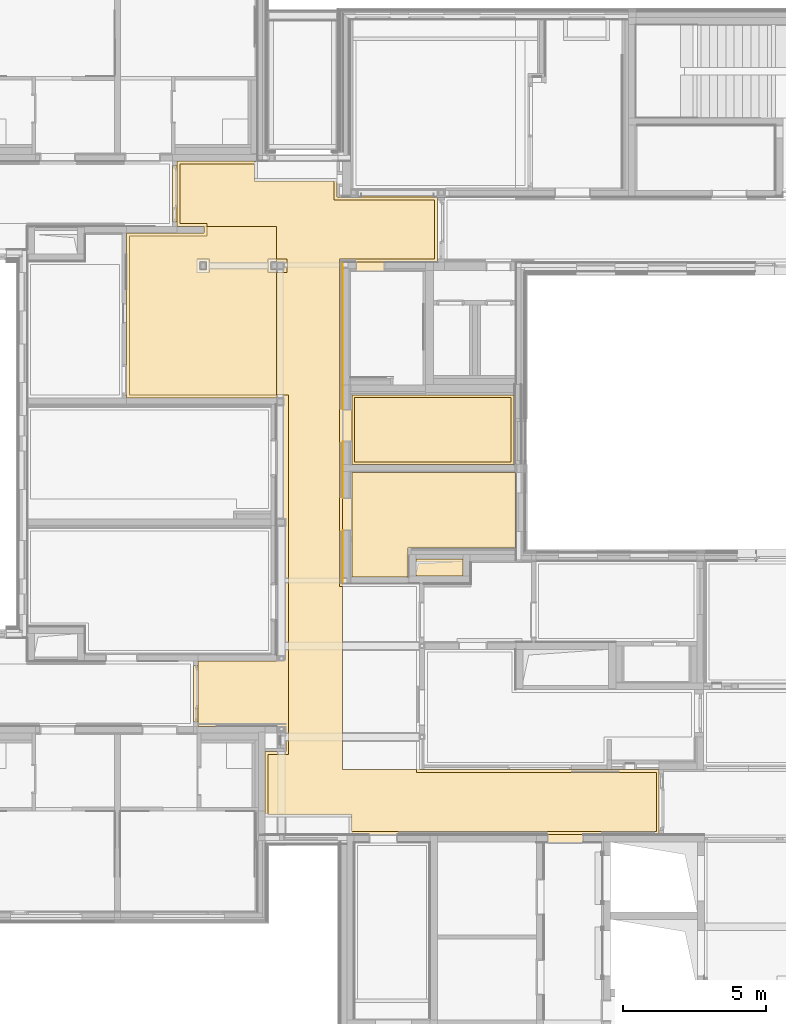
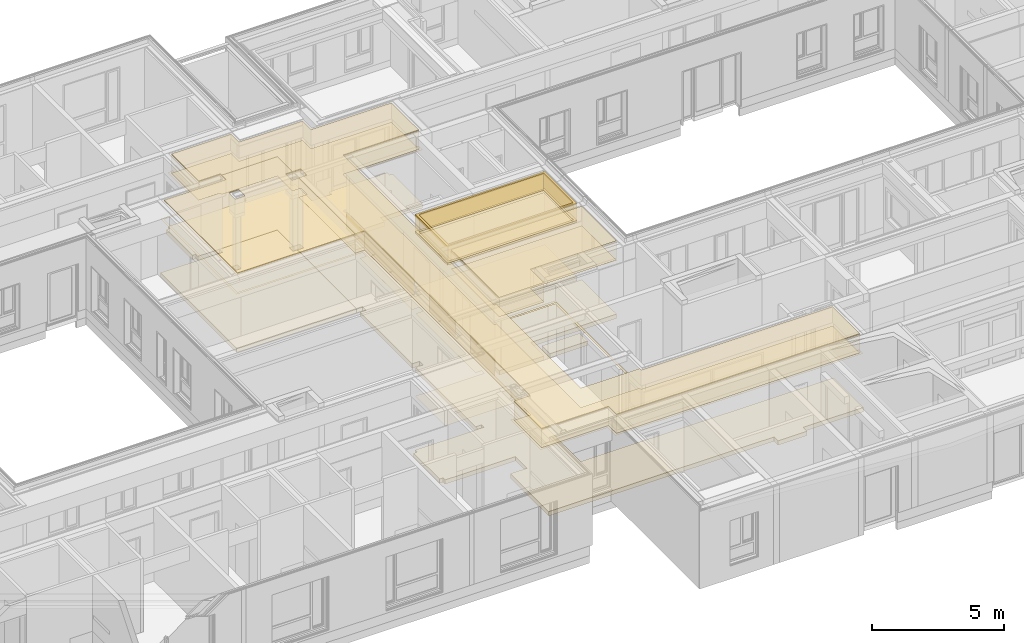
# One storey, part 170 of 207: 25 coverings.
"""IFC4 building model written with IfcOpenShell, lengths in metres."""

import ifcopenshell
import ifcopenshell.guid

model = None  # the IFC model being written
_history = None  # IfcOwnerHistory: only IFC2X3 demands one
_inside = {}  # id of a spatial element -> (the spatial element, [elements in it])
_under = {}  # id of a project, library or spatial element -> (it, [spatial elements below it])
_declared = {}  # id of a project -> (the project, [libraries it declares])
_typed = {}  # id of a type object -> (the type object, [elements of that type])
_made_of = {}  # id of a material, layer set ... -> (it, [elements and type objects made of it])


def new_model(schema):
    """Start an empty IFC model of exactly this schema.

    Asked for "IFC4X3", IfcOpenShell would pick the latest addendum, in which some entities
    have other attributes; the version numbers below select the first issue.
    IFC2X3 requires an IfcOwnerHistory on every rooted entity: one is made here for all.
    """
    global model, _history
    if schema == "IFC4X3":
        model = ifcopenshell.file(schema_version=(4, 3, 0, 0))
    else:
        model = ifcopenshell.file(schema=schema)
    _inside.clear()
    _under.clear()
    _declared.clear()
    _typed.clear()
    _made_of.clear()
    _history = None
    if model.schema == "IFC2X3":
        org = make("IfcOrganization", Name="unknown")
        user = make(
            "IfcPersonAndOrganization",
            ThePerson=make("IfcPerson", FamilyName="unknown"),
            TheOrganization=org,
        )
        app = make(
            "IfcApplication",
            ApplicationDeveloper=org,
            Version="unknown",
            ApplicationFullName="unknown",
            ApplicationIdentifier="unknown",
        )
        _history = make(
            "IfcOwnerHistory",
            OwningUser=user,
            OwningApplication=app,
            ChangeAction="ADDED",
            CreationDate=0,
        )
    return model


def make(cls, **values):
    """One entity of the class cls with the attributes given. An attribute that is None is left unset."""
    return model.create_entity(
        cls, **{name: value for name, value in values.items() if value is not None}
    )


def entity(cls, *values):
    """Any entity or typed value of the class cls, its attributes in the order of the schema. None: left unset."""
    e = model.create_entity(cls)
    for i, value in enumerate(values):
        if value is not None:
            e[i] = value
    return e


def rooted(cls, **values):
    """An entity with a GlobalId (a new one), such as an element, a storey or a relation."""
    return make(cls, GlobalId=ifcopenshell.guid.new(), OwnerHistory=_history, **values)


def si_unit(unit_type, name, prefix=None):
    """IfcSIUnit, for example si_unit("LENGTHUNIT", "METRE", prefix="MILLI")."""
    return make("IfcSIUnit", UnitType=unit_type, Prefix=prefix, Name=name)


def converted_unit(unit_type, name, factor, base, dimensions=None, offset=None):
    """IfcConversionBasedUnit, such as the inch: factor (a typed value) times the base unit."""
    return make(
        "IfcConversionBasedUnit"
        if offset is None
        else "IfcConversionBasedUnitWithOffset",
        ConversionOffset=offset,
        Dimensions=None
        if dimensions is None
        else entity("IfcDimensionalExponents", *dimensions),
        UnitType=unit_type,
        Name=name,
        ConversionFactor=make(
            "IfcMeasureWithUnit", ValueComponent=factor, UnitComponent=base
        ),
    )


def derived_unit(unit_type, elements):
    """IfcDerivedUnit: a product of units, each with its exponent."""
    return make(
        "IfcDerivedUnit",
        Elements=[
            make("IfcDerivedUnitElement", Unit=unit, Exponent=power)
            for unit, power in elements
        ],
        UnitType=unit_type,
    )


def assignment(units):
    """IfcUnitAssignment: the units of a project."""
    return None if units is None else make("IfcUnitAssignment", Units=units)


def point(xyz):
    """IfcCartesianPoint."""
    return None if xyz is None else make("IfcCartesianPoint", Coordinates=xyz)


def direction(xyz):
    """IfcDirection."""
    return None if xyz is None else make("IfcDirection", DirectionRatios=xyz)


def frame(location, z_axis=None, x_axis=None):
    """IfcAxis2Placement3D, a coordinate frame: its origin and axes. An axis left out is left unset."""
    return make(
        "IfcAxis2Placement3D",
        Location=point(location),
        Axis=direction(z_axis),
        RefDirection=direction(x_axis),
    )


def frame_2d(location, x_axis=None):
    """IfcAxis2Placement2D, a coordinate frame in the plane: its origin and x axis."""
    return make(
        "IfcAxis2Placement2D", Location=point(location), RefDirection=direction(x_axis)
    )


def origin():
    """The frame at (0, 0, 0) with its axes left unset."""
    return frame((0.0, 0.0, 0.0))


def origin_with_axes():
    """The frame at (0, 0, 0) with the z axis (0, 0, 1) and the x axis (1, 0, 0) written out."""
    return frame((0.0, 0.0, 0.0), z_axis=(0.0, 0.0, 1.0), x_axis=(1.0, 0.0, 0.0))


def place(relative_to, where):
    """IfcLocalPlacement: puts the frame where relative to a parent placement (None: the world)."""
    return make(
        "IfcLocalPlacement", PlacementRelTo=relative_to, RelativePlacement=where
    )


def context(
    kind, dimensions, precision=None, world=None, true_north=None, identifier=None
):
    """IfcGeometricRepresentationContext, for example the 3D "Model" context."""
    return make(
        "IfcGeometricRepresentationContext",
        ContextIdentifier=identifier,
        ContextType=kind,
        CoordinateSpaceDimension=dimensions,
        Precision=precision,
        WorldCoordinateSystem=world,
        TrueNorth=true_north,
    )


def subcontext(parent, identifier, kind, view, scale=None):
    """IfcGeometricRepresentationSubContext, for example "Body" below "Model"."""
    return make(
        "IfcGeometricRepresentationSubContext",
        ContextIdentifier=identifier,
        ContextType=kind,
        ParentContext=parent,
        TargetScale=scale,
        TargetView=view,
    )


def project(units=None, contexts=None):
    """IfcProject with its units and contexts."""
    return rooted(
        "IfcProject",
        Name="project",
        RepresentationContexts=contexts,
        UnitsInContext=assignment(units),
    )


def spatial(cls, under=None, at=None, **own):
    """A site, building, storey or space (cls), placed at a placement, below another one or the project."""
    s = rooted(cls, ObjectPlacement=at, **own)
    if under is not None:
        _under.setdefault(under.id(), (under, []))[1].append(s)
    return s


def polyline(points):
    """IfcPolyline through the points."""
    return make("IfcPolyline", Points=[point(p) for p in points])


def profile(cls, at=None, kind="AREA", **sizes):
    """A parametric profile (cls). Its sizes go by their IFC names, for example OverallWidth=200.0."""
    return make(cls, ProfileType=kind, Position=at, **sizes)


def rectangle(**sizes):
    """IfcRectangleProfileDef."""
    return profile("IfcRectangleProfileDef", **sizes)


def outline(outer, holes=None, kind="AREA"):
    """IfcArbitraryClosedProfileDef: a profile drawn as a closed curve; with holes, ...WithVoids."""
    if holes is None:
        return make("IfcArbitraryClosedProfileDef", ProfileType=kind, OuterCurve=outer)
    return make(
        "IfcArbitraryProfileDefWithVoids",
        ProfileType=kind,
        OuterCurve=outer,
        InnerCurves=holes,
    )


def extrude(swept, where, along, depth):
    """IfcExtrudedAreaSolid: the profile swept, set in the frame where, extruded along a direction by depth."""
    return make(
        "IfcExtrudedAreaSolid",
        SweptArea=swept,
        Position=where,
        ExtrudedDirection=direction(along),
        Depth=depth,
    )


def shape(context_of_items, identifier, shape_type, items):
    """IfcShapeRepresentation: the items that make up one representation, for example the "Body"."""
    return make(
        "IfcShapeRepresentation",
        ContextOfItems=context_of_items,
        RepresentationIdentifier=identifier,
        RepresentationType=shape_type,
        Items=items,
    )


def material(Name=None, Category=None):
    """IfcMaterial."""
    return make("IfcMaterial", Name=Name, Category=Category)


def layer(
    of_material, thickness, ventilated=None, Name=None, Category=None, Priority=None
):
    """IfcMaterialLayer: one layer of a wall or slab, of a material (None: an air gap)."""
    return make(
        "IfcMaterialLayer",
        Material=of_material,
        LayerThickness=thickness,
        IsVentilated=ventilated,
        Name=Name,
        Category=Category,
        Priority=Priority,
    )


def layer_set(layers, Name=None):
    """IfcMaterialLayerSet."""
    return make("IfcMaterialLayerSet", MaterialLayers=layers, LayerSetName=Name)


def layer_usage(for_layer_set, set_direction, sense, offset, extent=None):
    """IfcMaterialLayerSetUsage: how a layer set lies in its element."""
    return make(
        "IfcMaterialLayerSetUsage",
        ForLayerSet=for_layer_set,
        LayerSetDirection=set_direction,
        DirectionSense=sense,
        OffsetFromReferenceLine=offset,
        ReferenceExtent=extent,
    )


def made_of(thing, what):
    """Note that an element or type object is made of a material, layer set ...; save() writes the relation."""
    if what is not None:
        _made_of.setdefault(what.id(), (what, []))[1].append(thing)
    return thing


def element(
    cls,
    number,
    at=None,
    inside=None,
    cuts=None,
    type_object=None,
    material=None,
    context=None,
    identifier="Body",
    shape_type=None,
    held_by="IfcProductDefinitionShape",
    body=None,
    shapes=None,
    **own,
):
    """One element of the class cls, such as IfcWall. Its Tag is "e" and its number.

    at: its placement. inside: the storey or other place that contains it. cuts: it is an
    opening in that element (IfcRelVoidsElement). A single representation is given by context,
    identifier, shape_type and body (its items); several are given by shapes. held_by: the class
    of the entity that holds the representations. save() writes the other relations.
    """
    e = rooted(cls, Tag="e%d" % number, ObjectPlacement=at, **own)
    if body is not None:
        shapes = [shape(context, identifier, shape_type, body)]
    if shapes is not None:
        e.Representation = make(held_by, Representations=shapes)
    if inside is not None:
        _inside.setdefault(inside.id(), (inside, []))[1].append(e)
    if cuts is not None:
        rooted(
            "IfcRelVoidsElement", RelatingBuildingElement=cuts, RelatedOpeningElement=e
        )
    if type_object is not None:
        _typed.setdefault(type_object.id(), (type_object, []))[1].append(e)
    return made_of(e, material)


def aggregate(whole, parts):
    """IfcRelAggregates: a whole, such as a stair, and the parts it consists of."""
    return rooted("IfcRelAggregates", RelatingObject=whole, RelatedObjects=parts)


def save(model, path):
    """Write the relations noted so far, then the file.

    IfcRelAggregates (storeys below a building ...), IfcRelContainedInSpatialStructure (elements
    in a storey), IfcRelDefinesByType, IfcRelAssociatesMaterial and IfcRelDeclares: one each for
    every whole, place, type object, material and project.
    """
    for whole, parts in _under.values():
        aggregate(whole, parts)
    for where, things in _inside.values():
        rooted(
            "IfcRelContainedInSpatialStructure",
            RelatedElements=things,
            RelatingStructure=where,
        )
    for kind, things in _typed.values():
        rooted("IfcRelDefinesByType", RelatedObjects=things, RelatingType=kind)
    for what, things in _made_of.values():
        rooted("IfcRelAssociatesMaterial", RelatedObjects=things, RelatingMaterial=what)
    for by, libraries in _declared.values():
        rooted("IfcRelDeclares", RelatingContext=by, RelatedDefinitions=libraries)
    model.write(path)


model = new_model("IFC4")

# Units and contexts
model_context = context("Model", 3, precision=1e-05, world=origin())
body_context = subcontext(model_context, "Body", "Model", "MODEL_VIEW")
ifc_project = project(units=[si_unit("LENGTHUNIT", "METRE"), si_unit("AREAUNIT", "SQUARE_METRE"), si_unit("VOLUMEUNIT", "CUBIC_METRE"), si_unit("MASSUNIT", "GRAM", prefix="KILO"), converted_unit("PLANEANGLEUNIT", "DEGREE", entity("IfcPlaneAngleMeasure", 0.0174532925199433), si_unit("PLANEANGLEUNIT", "RADIAN"), dimensions=[0, 0, 0, 0, 0, 0, 0]), derived_unit("THERMALTRANSMITTANCEUNIT", [(si_unit("POWERUNIT", "WATT"), 1), (si_unit("THERMODYNAMICTEMPERATUREUNIT", "KELVIN"), -1), (si_unit("LENGTHUNIT", "METRE"), -2)]), derived_unit("VOLUMETRICFLOWRATEUNIT", [(si_unit("LENGTHUNIT", "METRE"), 3), (converted_unit("TIMEUNIT", "hour", entity("IfcTimeMeasure", 3600.0), si_unit("TIMEUNIT", "SECOND"), dimensions=[0, 0, 1, 0, 0, 0, 0]), -1), (si_unit("LENGTHUNIT", "METRE"), -1)])], contexts=[model_context])

# Site, building, storey
site_placement = place(None, origin())
site = spatial("IfcSite", under=ifc_project, at=site_placement, Name="Psychiatrie Neubau Wunstorf", CompositionType="ELEMENT")
building_placement = place(site_placement, origin())
building = spatial("IfcBuilding", under=site, at=building_placement, Name="Neubau H2 Stationsgebäude", CompositionType="ELEMENT")
storey_placement = place(building_placement, frame((0.0, 0.0, -0.2)))
storey = spatial("IfcBuildingStorey", under=building, at=storey_placement, Name="H2 Ebene 0", CompositionType="ELEMENT", Elevation=-0.2)

# Covering
ifc_material_1 = material(Name="SE")
ifc_layer_1 = layer(ifc_material_1, 0.19)
ifc_layer_set_1 = layer_set([ifc_layer_1])
ifc_layer_usage_1 = layer_usage(ifc_layer_set_1, "AXIS3", "POSITIVE", 0.0)
covering_1_placement = place(storey_placement, frame((40.4499511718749, 9.58499624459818, 0.0)))
element("IfcCovering", 1, at=covering_1_placement, inside=storey, material=ifc_layer_usage_1, Name="Estrich", PredefinedType="FLOORING", context=body_context, shape_type="SweptSolid", body=[
    extrude(rectangle(XDim=0.611003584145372, YDim=1.65000000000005, at=frame_2d((0.825000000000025, -0.305501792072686), x_axis=(0.0, -1.0))), frame((0.0, 0.611003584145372, 0.0), z_axis=(0.0, 0.0, 1.0), x_axis=(1.0, 0.0, 0.0)), (0.0, 0.0, 1.0), 0.19),
])

# Space
space_1_placement = place(storey_placement, frame((32.083, 0.549, 0.0)))
space_1 = spatial("IfcSpace", under=storey, at=space_1_placement, Name="WUN-H2-E00-F03", CompositionType="ELEMENT")

# Coverings
ifc_material_2 = material(Name="84")
ifc_layer_2 = layer(ifc_material_2, 0.001)
ifc_layer_set_2 = layer_set([ifc_layer_2])
ifc_layer_usage_2 = layer_usage(ifc_layer_set_2, "AXIS3", "POSITIVE", 0.0)
covering_2_placement = place(space_1_placement, frame((5.79949999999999, 8.77499624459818, 0.1)))
element("IfcCovering", 2, at=covering_2_placement, inside=space_1, material=ifc_layer_usage_2, Name="Acrobyn", PredefinedType="CLADDING", context=body_context, shape_type="SweptSolid", body=[
    extrude(rectangle(XDim=0.9, YDim=5.16099802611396, at=frame_2d((2.58049901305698, 0.45), x_axis=(0.0, 1.0))), frame((0.0, 6.10100375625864, 0.9), z_axis=(-1.0, 0.0, 0.0), x_axis=(0.0, 1.0, 0.0)), (0.0, 0.0, 1.0), 0.001),
    extrude(rectangle(XDim=0.9, YDim=1.86600344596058, at=frame_2d((-0.933001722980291, -0.45), x_axis=(0.0, -1.0))), frame((0.0, 1.86600344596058, 0.0), z_axis=(-1.0, 0.0, 0.0), x_axis=(0.0, 1.0, 0.0)), (0.0, 0.0, 1.0), 0.001),
    extrude(rectangle(XDim=0.9, YDim=1.96500031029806, at=frame_2d((-0.982500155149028, -0.45), x_axis=(0.0, -1.0))), frame((0.0, 4.96600375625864, 0.0), z_axis=(-1.0, 0.0, 0.0), x_axis=(0.0, 1.0, 0.0)), (0.0, 0.0, 1.0), 0.001),
])
ifc_material_3 = material(Name="97")
ifc_layer_3 = layer(ifc_material_3, 0.001)
ifc_layer_set_3 = layer_set([ifc_layer_3])
ifc_layer_usage_3 = layer_usage(ifc_layer_set_3, "AXIS3", "POSITIVE", 0.0)
covering_3_placement = place(space_1_placement, frame((5.79949999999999, 8.77499624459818, 0.8)))
element("IfcCovering", 3, at=covering_3_placement, inside=space_1, material=ifc_layer_usage_3, Name="Handlauf", PredefinedType="CLADDING", context=body_context, shape_type="SweptSolid", body=[
    extrude(rectangle(XDim=5.16099802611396, YDim=0.1, at=frame_2d((-2.58049901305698, 0.05), x_axis=(-1.0, 0.0))), frame((0.0, 11.2620017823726, 0.1), z_axis=(-1.0, 0.0, 0.0), x_axis=(0.0, 1.0, 0.0)), (0.0, 0.0, 1.0), 0.001),
    extrude(rectangle(XDim=0.1, YDim=1.86600344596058, at=frame_2d((-0.933001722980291, -0.05), x_axis=(0.0, -1.0))), frame((0.0, 1.86600344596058, 0.0), z_axis=(-1.0, 0.0, 0.0), x_axis=(0.0, 1.0, 0.0)), (0.0, 0.0, 1.0), 0.001),
    extrude(rectangle(XDim=0.1, YDim=1.96500031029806, at=frame_2d((-0.982500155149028, -0.05), x_axis=(0.0, -1.0))), frame((0.0, 4.96600375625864, 0.0), z_axis=(-1.0, 0.0, 0.0), x_axis=(0.0, 1.0, 0.0)), (0.0, 0.0, 1.0), 0.001),
])
ifc_material_4 = material(Name="Ku1")
ifc_layer_4 = layer(ifc_material_4, 0.2)
ifc_layer_set_4 = layer_set([ifc_layer_4])
ifc_layer_usage_4 = layer_usage(ifc_layer_set_4, "AXIS3", "POSITIVE", 0.0)
covering_4_placement = place(space_1_placement, frame((-0.155000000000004, -0.299, 0.0)))
element("IfcCovering", 4, at=covering_4_placement, inside=space_1, material=ifc_layer_usage_4, Name="PVC Bahnenware Holzoptik", PredefinedType="FLOORING", context=body_context, shape_type="SweptSolid", body=[
    extrude(rectangle(XDim=1.98299888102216, YDim=0.144999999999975, at=frame_2d((0.991499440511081, 0.0724999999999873), x_axis=(1.0, 0.0))), frame((3.59800111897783, 23.8640036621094, 0.0), z_axis=(0.0, 0.0, 1.0), x_axis=(1.0, 0.0, 0.0)), (0.0, 0.0, 1.0), 0.2),
    extrude(rectangle(XDim=0.3215, YDim=1.135, at=frame_2d((-0.16075, -0.5675), x_axis=(-1.0, 0.0))), frame((6.276, 15.1750000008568, 0.0), z_axis=(0.0, 0.0, 1.0), x_axis=(1.0, 0.0, 0.0)), (0.0, 0.0, 1.0), 0.2),
    extrude(rectangle(XDim=0.3215, YDim=1.135, at=frame_2d((-0.16075, -0.5675), x_axis=(-1.0, 0.0))), frame((6.276, 12.0749996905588, 0.0), z_axis=(0.0, 0.0, 1.0), x_axis=(1.0, 0.0, 0.0)), (0.0, 0.0, 1.0), 0.2),
    extrude(rectangle(XDim=0.155, YDim=1.9715, at=frame_2d((-0.0775, -0.98575), x_axis=(-1.0, 0.0))), frame((0.155000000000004, 23.7125000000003, 0.0), z_axis=(0.0, 0.0, 1.0), x_axis=(1.0, 0.0, 0.0)), (0.0, 0.0, 1.0), 0.2),
    extrude(rectangle(XDim=0.154999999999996, YDim=1.97125, at=frame_2d((-0.0774999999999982, -0.985625), x_axis=(-1.0, 0.0))), frame((0.890499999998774, 6.20699981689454, 0.0), z_axis=(0.0, 0.0, 1.0), x_axis=(1.0, 0.0, 0.0)), (0.0, 0.0, 1.0), 0.2),
    extrude(rectangle(XDim=0.3215, YDim=1.01, at=frame_2d((0.505, -0.16075), x_axis=(0.0, -1.0))), frame((6.42200000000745, 20.3359980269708, 0.0), z_axis=(0.0, 0.0, 1.0), x_axis=(1.0, 0.0, 0.0)), (0.0, 0.0, 1.0), 0.2),
    extrude(rectangle(XDim=0.185000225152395, YDim=2.55, at=frame_2d((1.27500019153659, -0.0924974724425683), x_axis=(2.07069289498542e-06, -0.999999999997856))), frame((6.60250021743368, 22.7989937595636, 0.0), z_axis=(0.0, 0.0, 1.0), x_axis=(1.0, 0.0, 0.0)), (0.0, 0.0, 1.0), 0.2),
    extrude(rectangle(XDim=0.299, YDim=1.26, at=frame_2d((0.63, -0.1495), x_axis=(0.0, -1.0))), frame((13.1270048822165, 0.299, 0.0), z_axis=(0.0, 0.0, 1.0), x_axis=(1.0, 0.0, 0.0)), (0.0, 0.0, 1.0), 0.2),
    extrude(outline(polyline([(3.8179950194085, 2.90174963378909), (3.08149999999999, 2.90174963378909), (3.08149999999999, 0.0), (16.8816999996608, 0.0), (16.8817000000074, 2.26849969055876), (5.79949999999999, 2.26849969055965), (5.79949999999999, 20.0369980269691), (9.12499999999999, 20.0369980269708), (9.12499999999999, 22.3149990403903), (5.59599999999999, 22.3149990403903), (5.59599999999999, 23.5650036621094), (2.80599999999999, 23.5650036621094), (2.80599999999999, 23.5685), (0.0, 23.5685000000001), (0.0, 21.2870000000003), (3.48699999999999, 21.2870000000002), (3.48699755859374, 20.0429973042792), (3.75299999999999, 20.0429956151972), (3.75299999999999, 19.7709956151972), (3.48699755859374, 19.7709973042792), (3.48699999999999, 15.2834990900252), (3.75299999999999, 15.2834990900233), (3.75299999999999, 15.0114990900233), (3.48700000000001, 15.0114990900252), (3.48699999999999, 11.060557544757), (3.81799999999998, 11.0605575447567), (3.81799999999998, 10.7885575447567), (3.48699999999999, 10.788557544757), (3.48699999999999, 6.06299999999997), (0.73549999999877, 6.063), (0.73549999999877, 3.7817496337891), (3.8179950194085, 3.78174963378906), (3.8179950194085, 2.90174963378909)]), holes=[polyline([(3.75223964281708, 6.24799856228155), (3.75223964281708, 6.06799856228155), (3.48724462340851, 6.06799856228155), (3.48724462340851, 6.24799856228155), (3.75223964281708, 6.24799856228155)])]), frame((0.155000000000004, 0.299, 0.0), z_axis=(0.0, 0.0, 1.0), x_axis=(1.0, 0.0, 0.0)), (0.0, 0.0, 1.0), 0.2),
])
ifc_material_5 = material()
ifc_layer_5 = layer(ifc_material_5, 0.036)
ifc_layer_set_5 = layer_set([ifc_layer_5])
ifc_layer_usage_5 = layer_usage(ifc_layer_set_5, "AXIS3", "POSITIVE", 0.0)
covering_5_placement = place(space_1_placement, frame((0.100000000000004, 0.100000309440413, 3.6)))
element("IfcCovering", 5, at=covering_5_placement, inside=space_1, material=ifc_layer_usage_5, Name="Gipsfaserplatten 2-lagig (BSK)", PredefinedType="CEILING", context=body_context, shape_type="SweptSolid", body=[
    extrude(outline(polyline([(16.6817000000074, 21.3000003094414), (16.6816999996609, 23.3684996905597), (15.2669989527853, 23.3674996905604), (8.4469987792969, 23.3674996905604), (6.01699999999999, 23.3684996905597), (6.01699999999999, 22.7675003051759), (3.08149999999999, 22.7675003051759), (3.08149999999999, 20.666750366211), (3.80299999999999, 20.666750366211), (3.80299999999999, 8.08500090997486), (3.38699999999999, 8.08500090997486), (3.38700010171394, 3.79750144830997), (3.75300010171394, 3.79750438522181), (3.7529994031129, 3.32550479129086), (3.3869994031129, 3.32550185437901), (3.38699999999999, 2.1814999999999), (0.949999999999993, 2.1814999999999), (0.949999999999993, 2.0814999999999), (0.0, 2.08149999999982), (0.0, 0.0), (2.61699999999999, 0.0), (2.61699999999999, 0.602500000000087), (5.39599999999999, 0.602500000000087), (5.39599999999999, 1.2535009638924), (8.92499999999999, 1.25350095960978), (8.92499999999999, 3.33150197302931), (5.59949999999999, 3.33150197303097), (5.59949999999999, 14.7935037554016), (5.69949999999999, 14.7935037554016), (5.69949999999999, 21.2000003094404), (8.29193497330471, 21.1999990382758), (8.29193497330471, 21.2999990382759), (16.6817000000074, 21.3000003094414)])), frame((0.0, 23.3684996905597, 0.0), z_axis=(0.0, 0.0, -1.0), x_axis=(1.0, 0.0, 0.0)), (0.0, 0.0, 1.0), 0.036),
])
ifc_material_6 = material(Name="Installationshöhe")
ifc_layer_6 = layer(ifc_material_6, 0.714)
ifc_layer_set_6 = layer_set([ifc_layer_6])
ifc_layer_usage_6 = layer_usage(ifc_layer_set_6, "AXIS3", "POSITIVE", 0.0)
covering_6_placement = place(space_1_placement, frame((0.100000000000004, 0.100000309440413, 3.564)))
element("IfcCovering", 6, at=covering_6_placement, inside=space_1, material=ifc_layer_usage_6, Name="Gipsfaserplatten 2-lagig (BSK)", PredefinedType="CEILING", context=body_context, shape_type="SweptSolid", body=[
    extrude(outline(polyline([(16.6817000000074, 21.3000003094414), (16.6816999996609, 23.3684996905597), (15.2669989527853, 23.3674996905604), (8.4469987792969, 23.3674996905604), (6.01699999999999, 23.3684996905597), (6.01699999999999, 22.7675003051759), (3.08149999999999, 22.7675003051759), (3.08149999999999, 20.666750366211), (3.80299999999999, 20.666750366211), (3.80299999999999, 8.08500090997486), (3.38699999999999, 8.08500090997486), (3.38700010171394, 3.79750144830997), (3.75300010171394, 3.79750438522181), (3.7529994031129, 3.32550479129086), (3.3869994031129, 3.32550185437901), (3.38699999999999, 2.1814999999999), (0.949999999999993, 2.1814999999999), (0.949999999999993, 2.0814999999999), (0.0, 2.08149999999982), (0.0, 0.0), (2.61699999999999, 0.0), (2.61699999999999, 0.602500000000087), (5.39599999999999, 0.602500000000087), (5.39599999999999, 1.2535009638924), (8.92499999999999, 1.25350095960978), (8.92499999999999, 3.33150197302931), (5.59949999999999, 3.33150197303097), (5.59949999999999, 14.7935037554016), (5.69949999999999, 14.7935037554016), (5.69949999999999, 21.2000003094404), (8.29193497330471, 21.1999990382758), (8.29193497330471, 21.2999990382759), (16.6817000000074, 21.3000003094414)])), frame((0.0, 23.3684996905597, 0.0), z_axis=(0.0, 0.0, -1.0), x_axis=(1.0, 0.0, 0.0)), (0.0, 0.0, 1.0), 0.714),
])
ifc_material_7 = material(Name="Aa")
ifc_layer_7 = layer(ifc_material_7, 0.15)
ifc_layer_set_7 = layer_set([ifc_layer_7])
ifc_layer_usage_7 = layer_usage(ifc_layer_set_7, "AXIS3", "POSITIVE", 0.0)
covering_7_placement = place(space_1_placement, frame((0.100000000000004, 0.100000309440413, 2.85)))
element("IfcCovering", 7, at=covering_7_placement, inside=space_1, material=ifc_layer_usage_7, Name="Gipsfaserplatten 2-lagig (BSK)", PredefinedType="CEILING", context=body_context, shape_type="SweptSolid", body=[
    extrude(outline(polyline([(16.6817000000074, 21.3000003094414), (16.6816999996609, 23.3684996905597), (15.2669989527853, 23.3674996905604), (8.4469987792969, 23.3674996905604), (6.01699999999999, 23.3684996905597), (6.01699999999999, 22.7675003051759), (3.08149999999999, 22.7675003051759), (3.08149999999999, 20.666750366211), (3.80299999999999, 20.666750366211), (3.80299999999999, 8.08500090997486), (3.38699999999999, 8.08500090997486), (3.38700010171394, 3.79750144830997), (3.75300010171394, 3.79750438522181), (3.7529994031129, 3.32550479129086), (3.3869994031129, 3.32550185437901), (3.38699999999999, 2.1814999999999), (0.949999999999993, 2.1814999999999), (0.949999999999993, 2.0814999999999), (0.0, 2.08149999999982), (0.0, 0.0), (2.61699999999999, 0.0), (2.61699999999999, 0.602500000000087), (5.39599999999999, 0.602500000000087), (5.39599999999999, 1.2535009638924), (8.92499999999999, 1.25350095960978), (8.92499999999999, 3.33150197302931), (5.59949999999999, 3.33150197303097), (5.59949999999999, 14.7935037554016), (5.69949999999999, 14.7935037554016), (5.69949999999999, 21.2000003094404), (8.29193497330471, 21.1999990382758), (8.29193497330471, 21.2999990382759), (16.6817000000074, 21.3000003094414)])), frame((0.0, 23.3684996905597, 0.0), z_axis=(0.0, 0.0, -1.0), x_axis=(1.0, 0.0, 0.0)), (0.0, 0.0, 1.0), 0.15),
])
ifc_material_8 = material(Name="D1")
ifc_layer_8 = layer(ifc_material_8, 0.001)
ifc_layer_set_8 = layer_set([ifc_layer_8])
ifc_layer_usage_8 = layer_usage(ifc_layer_set_8, "AXIS3", "POSITIVE", 0.0)
covering_8_placement = place(space_1_placement, frame((0.100000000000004, 0.100000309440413, 2.7)))
element("IfcCovering", 8, at=covering_8_placement, inside=space_1, material=ifc_layer_usage_8, Name="Gipsfaserplatten 2-lagig (BSK)", PredefinedType="CEILING", context=body_context, shape_type="SweptSolid", body=[
    extrude(outline(polyline([(16.6817000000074, 21.3000003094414), (16.6816999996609, 23.3684996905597), (15.2669989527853, 23.3674996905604), (8.4469987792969, 23.3674996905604), (6.01699999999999, 23.3684996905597), (6.01699999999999, 22.7675003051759), (3.08149999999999, 22.7675003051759), (3.08149999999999, 20.666750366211), (3.80299999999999, 20.666750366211), (3.80299999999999, 8.08500090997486), (3.38699999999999, 8.08500090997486), (3.38700010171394, 3.79750144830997), (3.75300010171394, 3.79750438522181), (3.7529994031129, 3.32550479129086), (3.3869994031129, 3.32550185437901), (3.38699999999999, 2.1814999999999), (0.949999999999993, 2.1814999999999), (0.949999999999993, 2.0814999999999), (0.0, 2.08149999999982), (0.0, 0.0), (2.61699999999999, 0.0), (2.61699999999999, 0.602500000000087), (5.39599999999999, 0.602500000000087), (5.39599999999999, 1.2535009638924), (8.92499999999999, 1.25350095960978), (8.92499999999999, 3.33150197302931), (5.59949999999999, 3.33150197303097), (5.59949999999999, 14.7935037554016), (5.69949999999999, 14.7935037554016), (5.69949999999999, 21.2000003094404), (8.29193497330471, 21.1999990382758), (8.29193497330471, 21.2999990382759), (16.6817000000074, 21.3000003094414)])), frame((0.0, 23.3684996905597, 0.0), z_axis=(0.0, 0.0, -1.0), x_axis=(1.0, 0.0, 0.0)), (0.0, 0.0, 1.0), 0.001),
])
ifc_material_9 = material(Name="D1")
ifc_layer_9 = layer(ifc_material_9, 0.001)
ifc_layer_set_9 = layer_set([ifc_layer_9])
ifc_layer_usage_9 = layer_usage(ifc_layer_set_9, "AXIS3", "POSITIVE", 0.0)
covering_9_placement = place(space_1_placement, frame((-1.76615095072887, 0.0, 2.7)))
element("IfcCovering", 9, at=covering_9_placement, inside=space_1, material=ifc_layer_usage_9, Name="Gipsfaserplatten 2-lagig (BSK)", PredefinedType="CEILING", context=body_context, shape_type="SweptSolid", body=[
    extrude(outline(polyline([(4.94765095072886, 22.8675003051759), (7.88315095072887, 22.8675003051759), (7.88315095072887, 23.4684996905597), (18.5478509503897, 23.4684996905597), (18.5478509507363, 21.4000003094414), (10.1580859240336, 21.3999990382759), (10.1580859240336, 21.3000003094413), (18.6478509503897, 21.3000003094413), (18.6478509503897, 23.5685000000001), (7.78315095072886, 23.5685000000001), (7.78315095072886, 22.9675003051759), (4.84765095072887, 22.9675003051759), (4.84765095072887, 20.666750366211), (5.58414597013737, 20.666750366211), (5.58414597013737, 19.786750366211), (2.50165095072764, 19.786750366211), (2.50165095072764, 17.5055000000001), (5.25315095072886, 17.5055000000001), (5.25339557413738, 17.5005014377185), (5.51839059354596, 17.5005014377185), (5.51839059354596, 17.3205014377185), (5.25339557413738, 17.3205014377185), (5.25315095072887, 12.7799424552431), (5.58415095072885, 12.7799424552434), (5.58415095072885, 12.5079424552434), (5.25315095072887, 12.5079424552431), (5.25315095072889, 8.55700090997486), (5.51915095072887, 8.55700090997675), (5.51915095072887, 8.28500090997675), (0.0, 8.28500090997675), (0.0, 2.51350000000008), (2.71615095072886, 2.51350000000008), (2.71615095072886, 2.28150000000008), (1.76615095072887, 2.28150000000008), (1.76615095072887, 0.0), (4.57215095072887, 0.0), (4.57215095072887, 0.00349633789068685), (4.58315095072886, 0.00349633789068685), (4.58315095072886, 0.602500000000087), (7.36215095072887, 0.602500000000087), (7.36215095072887, 1.25350095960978), (10.8911509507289, 1.25350095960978), (10.8911509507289, 3.53150197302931), (7.56565095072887, 3.53150197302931), (7.56565095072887, 14.7935037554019), (10.2580859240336, 14.7950037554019), (10.2580859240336, 21.2999990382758), (10.1580859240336, 21.3000003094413), (10.1580859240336, 14.8950037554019), (7.46565095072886, 14.8935037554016), (7.46565095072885, 3.43150197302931), (10.7911509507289, 3.43150197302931), (10.7911509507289, 1.35350095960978), (7.26215095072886, 1.3535009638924), (7.26215095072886, 0.702500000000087), (4.48315095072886, 0.702500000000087), (4.48315095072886, 0.10000000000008), (1.86615095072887, 0.1), (1.86615095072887, 2.18149999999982), (2.81615095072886, 2.1814999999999), (2.81615095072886, 2.61151695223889), (0.1, 2.61151695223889), (0.1, 8.18500090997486), (5.66915095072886, 8.18500090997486), (5.66915095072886, 20.766750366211), (4.94765095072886, 20.766750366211), (4.94765095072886, 22.8675003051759)])), frame((0.0, 23.5685000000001, 0.0), z_axis=(0.0, 0.0, -1.0), x_axis=(1.0, 0.0, 0.0)), (0.0, 0.0, 1.0), 0.001),
])

# Space
space_2_placement = place(storey_placement, frame((30.3168490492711, 15.8324990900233, 0.0)))
space_2 = spatial("IfcSpace", under=storey, at=space_2_placement, Name="WUN-H2-E00-F03a", CompositionType="ELEMENT")

# Coverings
ifc_material_10 = material(Name="Ku1")
ifc_layer_10 = layer(ifc_material_10, 0.2)
ifc_layer_set_10 = layer_set([ifc_layer_10])
ifc_layer_usage_10 = layer_usage(ifc_layer_set_10, "AXIS3", "POSITIVE", 0.0)
covering_10_placement = place(space_2_placement, origin())
element("IfcCovering", 10, at=covering_10_placement, inside=space_2, material=ifc_layer_usage_10, Name="PVC Bahnenware Holzoptik", PredefinedType="FLOORING", context=body_context, shape_type="SweptSolid", body=[
    extrude(outline(polyline([(2.71615095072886, 6.00350090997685), (2.71615095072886, 5.77150090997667), (0.0, 5.77300090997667), (0.0, 0.0), (5.25315095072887, 0.0), (5.25315105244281, 4.48749777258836), (5.0571486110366, 4.48749946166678), (5.05714850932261, 4.75949821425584), (5.25314850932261, 4.75949821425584), (5.25315095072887, 6.00350090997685), (2.71615095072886, 6.00350090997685)]), holes=[polyline([(2.56614655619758, 4.75948945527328), (2.79814655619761, 4.75948945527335), (2.79814655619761, 4.48748945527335), (2.56614655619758, 4.48748945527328), (2.56614655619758, 4.75948945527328)])]), origin_with_axes(), (0.0, 0.0, 1.0), 0.2),
])
ifc_material_11 = material()
ifc_layer_11 = layer(ifc_material_11, 0.036)
ifc_layer_set_11 = layer_set([ifc_layer_11])
ifc_layer_usage_11 = layer_usage(ifc_layer_set_11, "AXIS3", "POSITIVE", 0.0)
covering_11_placement = place(space_2_placement, frame((0.0999999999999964, 0.100000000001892, 3.6)))
element("IfcCovering", 11, at=covering_11_placement, inside=space_2, material=ifc_layer_usage_11, Name="Gipsfaserplatten 2-lagig (BSK)", PredefinedType="CEILING", context=body_context, shape_type="SweptSolid", body=[
    extrude(outline(polyline([(5.15315105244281, 1.61600144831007), (5.15315095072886, 5.90350090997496), (0.0, 5.90350090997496), (0.0, 0.330016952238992), (2.71615095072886, 0.330016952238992), (2.71615095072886, 0.0), (5.15315095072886, 0.0), (5.15315035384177, 1.14400185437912), (4.85714791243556, 1.14400185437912), (4.8571486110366, 1.61600144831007), (5.15315105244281, 1.61600144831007)]), holes=[polyline([(2.36614655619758, 1.6160114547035), (2.79814655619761, 1.6160114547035), (2.79814655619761, 1.14401314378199), (2.36614655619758, 1.14401314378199), (2.36614655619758, 1.6160114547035)])]), frame((0.0, 5.90350090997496, 0.0), z_axis=(0.0, 0.0, -1.0), x_axis=(1.0, 0.0, 0.0)), (0.0, 0.0, 1.0), 0.036),
])

# Space
space_3_placement = place(storey_placement, frame((38.204, 13.4894966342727, 0.0)))
space_3 = spatial("IfcSpace", under=storey, at=space_3_placement, Name="WUN-H2-E00-010", CompositionType="ELEMENT")

# Coverings
ifc_material_12 = material(Name="Ku1")
ifc_layer_12 = layer(ifc_material_12, 0.2)
ifc_layer_set_12 = layer_set([ifc_layer_12])
ifc_layer_usage_12 = layer_usage(ifc_layer_set_12, "AXIS3", "POSITIVE", 0.0)
covering_12_placement = place(space_3_placement, origin())
element("IfcCovering", 12, at=covering_12_placement, inside=space_3, material=ifc_layer_usage_12, Name="PVC Bahnenware Holzoptik", PredefinedType="FLOORING", context=body_context, shape_type="SweptSolid", body=[
    extrude(rectangle(XDim=5.67500000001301, YDim=2.44600941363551, at=frame_2d((2.83750000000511, 1.22300470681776), x_axis=(1.0, 0.0))), origin_with_axes(), (0.0, 0.0, 1.0), 0.2),
])
ifc_material_13 = material()
ifc_layer_13 = layer(ifc_material_13, 0.036)
ifc_layer_set_13 = layer_set([ifc_layer_13])
ifc_layer_usage_13 = layer_usage(ifc_layer_set_13, "AXIS3", "POSITIVE", 0.0)
covering_13_placement = place(space_3_placement, frame((0.0, 0.0, 3.6)))
element("IfcCovering", 13, at=covering_13_placement, inside=space_3, material=ifc_layer_usage_13, Name="Gipsfaserplatten 2-lagig (BSK)", PredefinedType="CEILING", context=body_context, shape_type="SweptSolid", body=[
    extrude(outline(polyline([(0.0, 0.0), (5.67500000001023, 0.0), (5.67500000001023, 2.44600941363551), (0.0, 2.44600941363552), (0.0, 0.0)]), holes=[polyline([(0.1, 0.100000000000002), (0.1, 2.34600941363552), (5.57500000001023, 2.34600941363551), (5.57500000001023, 0.1), (0.1, 0.100000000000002)])]), frame((0.0, 2.44600941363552, 0.0), z_axis=(0.0, 0.0, -1.0), x_axis=(1.0, 0.0, 0.0)), (0.0, 0.0, 1.0), 0.036),
])
ifc_material_14 = material(Name="Installationshöhe")
ifc_layer_14 = layer(ifc_material_14, 0.764)
ifc_layer_set_14 = layer_set([ifc_layer_14])
ifc_layer_usage_14 = layer_usage(ifc_layer_set_14, "AXIS3", "POSITIVE", 0.0)
covering_14_placement = place(space_3_placement, frame((0.0, 0.0, 3.564)))
element("IfcCovering", 14, at=covering_14_placement, inside=space_3, material=ifc_layer_usage_14, Name="Gipsfaserplatten 2-lagig (BSK)", PredefinedType="CEILING", context=body_context, shape_type="SweptSolid", body=[
    extrude(outline(polyline([(0.0, 0.0), (5.67500000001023, 0.0), (5.67500000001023, 2.44600941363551), (0.0, 2.44600941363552), (0.0, 0.0)]), holes=[polyline([(0.1, 0.100000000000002), (0.1, 2.34600941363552), (5.57500000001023, 2.34600941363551), (5.57500000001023, 0.1), (0.1, 0.100000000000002)])]), frame((0.0, 2.44600941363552, 0.0), z_axis=(0.0, 0.0, -1.0), x_axis=(1.0, 0.0, 0.0)), (0.0, 0.0, 1.0), 0.764),
])
ifc_material_15 = material(Name="H7a")
ifc_layer_15 = layer(ifc_material_15, 0.1)
ifc_layer_set_15 = layer_set([ifc_layer_15])
ifc_layer_usage_15 = layer_usage(ifc_layer_set_15, "AXIS3", "POSITIVE", 0.0)
covering_15_placement = place(space_3_placement, frame((0.0, 0.0, 2.8)))
element("IfcCovering", 15, at=covering_15_placement, inside=space_3, material=ifc_layer_usage_15, Name="Kühldecke glatt", PredefinedType="CEILING", context=body_context, shape_type="SweptSolid", body=[
    extrude(outline(polyline([(0.0, 0.0), (5.67500000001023, 0.0), (5.67500000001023, 2.44600941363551), (0.0, 2.44600941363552), (0.0, 0.0)]), holes=[polyline([(0.1, 0.100000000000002), (0.1, 2.34600941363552), (5.57500000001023, 2.34600941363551), (5.57500000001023, 0.1), (0.1, 0.100000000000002)])]), frame((0.0, 2.44600941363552, 0.0), z_axis=(0.0, 0.0, -1.0), x_axis=(1.0, 0.0, 0.0)), (0.0, 0.0, 1.0), 0.1),
])
ifc_material_16 = material(Name="D1")
ifc_layer_16 = layer(ifc_material_16, 0.001)
ifc_layer_set_16 = layer_set([ifc_layer_16])
ifc_layer_usage_16 = layer_usage(ifc_layer_set_16, "AXIS3", "POSITIVE", 0.0)
covering_16_placement = place(space_3_placement, frame((0.0, 0.0, 2.7)))
element("IfcCovering", 16, at=covering_16_placement, inside=space_3, material=ifc_layer_usage_16, Name="Gipsfaserplatten 2-lagig (BSK)", PredefinedType="CEILING", context=body_context, shape_type="SweptSolid", body=[
    extrude(outline(polyline([(0.0, 0.0), (5.67500000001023, 0.0), (5.67500000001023, 2.44600941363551), (0.0, 2.44600941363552), (0.0, 0.0)]), holes=[polyline([(0.1, 0.100000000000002), (0.1, 2.34600941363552), (5.57500000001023, 2.34600941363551), (5.57500000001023, 0.1), (0.1, 0.100000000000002)])]), frame((0.0, 2.44600941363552, 0.0), z_axis=(0.0, 0.0, -1.0), x_axis=(1.0, 0.0, 0.0)), (0.0, 0.0, 1.0), 0.001),
])
ifc_material_17 = material()
ifc_layer_17 = layer(ifc_material_17, 0.036)
ifc_layer_set_17 = layer_set([ifc_layer_17])
ifc_layer_usage_17 = layer_usage(ifc_layer_set_17, "AXIS3", "POSITIVE", 0.0)
covering_17_placement = place(space_3_placement, frame((0.1, 0.1, 3.6)))
element("IfcCovering", 17, at=covering_17_placement, inside=space_3, material=ifc_layer_usage_17, Name="Gipsfaserplatten 2-lagig (BSK)", PredefinedType="CEILING", context=body_context, shape_type="SweptSolid", body=[
    extrude(rectangle(XDim=5.47500000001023, YDim=2.24600941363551, at=frame_2d((2.73750000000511, 1.12300470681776), x_axis=(1.0, -3.32235507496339e-16))), frame((0.0, 2.24600941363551, 0.0), z_axis=(0.0, 0.0, -1.0), x_axis=(1.0, 0.0, 0.0)), (0.0, 0.0, 1.0), 0.036),
])
ifc_material_18 = material(Name="Installationshöhe")
ifc_layer_18 = layer(ifc_material_18, 0.764)
ifc_layer_set_18 = layer_set([ifc_layer_18])
ifc_layer_usage_18 = layer_usage(ifc_layer_set_18, "AXIS3", "POSITIVE", 0.0)
covering_18_placement = place(space_3_placement, frame((0.1, 0.1, 3.564)))
element("IfcCovering", 18, at=covering_18_placement, inside=space_3, material=ifc_layer_usage_18, Name="Gipsfaserplatten 2-lagig (BSK)", PredefinedType="CEILING", context=body_context, shape_type="SweptSolid", body=[
    extrude(rectangle(XDim=5.47500000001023, YDim=2.24600941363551, at=frame_2d((2.73750000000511, 1.12300470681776), x_axis=(1.0, -3.32235507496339e-16))), frame((0.0, 2.24600941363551, 0.0), z_axis=(0.0, 0.0, -1.0), x_axis=(1.0, 0.0, 0.0)), (0.0, 0.0, 1.0), 0.764),
])
ifc_material_19 = material(Name="H7b")
ifc_layer_19 = layer(ifc_material_19, 0.1)
ifc_layer_set_19 = layer_set([ifc_layer_19])
ifc_layer_usage_19 = layer_usage(ifc_layer_set_19, "AXIS3", "POSITIVE", 0.0)
covering_19_placement = place(space_3_placement, frame((0.1, 0.1, 2.8)))
element("IfcCovering", 19, at=covering_19_placement, inside=space_3, material=ifc_layer_usage_19, Name="Kühldecke gelocht", PredefinedType="CEILING", context=body_context, shape_type="SweptSolid", body=[
    extrude(rectangle(XDim=5.47500000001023, YDim=2.24600941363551, at=frame_2d((2.73750000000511, 1.12300470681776), x_axis=(1.0, -3.32235507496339e-16))), frame((0.0, 2.24600941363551, 0.0), z_axis=(0.0, 0.0, -1.0), x_axis=(1.0, 0.0, 0.0)), (0.0, 0.0, 1.0), 0.1),
])
ifc_material_20 = material(Name="D1")
ifc_layer_20 = layer(ifc_material_20, 0.001)
ifc_layer_set_20 = layer_set([ifc_layer_20])
ifc_layer_usage_20 = layer_usage(ifc_layer_set_20, "AXIS3", "POSITIVE", 0.0)
covering_20_placement = place(space_3_placement, frame((0.1, 0.1, 2.7)))
element("IfcCovering", 20, at=covering_20_placement, inside=space_3, material=ifc_layer_usage_20, Name="Gipsfaserplatten 2-lagig (BSK)", PredefinedType="CEILING", context=body_context, shape_type="SweptSolid", body=[
    extrude(rectangle(XDim=5.47500000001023, YDim=2.24600941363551, at=frame_2d((2.73750000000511, 1.12300470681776), x_axis=(1.0, -3.32235507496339e-16))), frame((0.0, 2.24600941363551, 0.0), z_axis=(0.0, 0.0, -1.0), x_axis=(1.0, 0.0, 0.0)), (0.0, 0.0, 1.0), 0.001),
])

# Space
space_4_placement = place(storey_placement, frame((38.204, 9.55599624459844, 0.0)))
space_4 = spatial("IfcSpace", under=storey, at=space_4_placement, Name="WUN-H2-E00-011", CompositionType="ELEMENT")

# Coverings
ifc_material_21 = material(Name="Ku2")
ifc_layer_21 = layer(ifc_material_21, 0.2)
ifc_layer_set_21 = layer_set([ifc_layer_21])
ifc_layer_usage_21 = layer_usage(ifc_layer_set_21, "AXIS3", "POSITIVE", 0.0)
covering_21_placement = place(space_4_placement, origin())
element("IfcCovering", 21, at=covering_21_placement, inside=space_4, material=ifc_layer_usage_21, Name="PVC Bahnenware Uni", PredefinedType="FLOORING", context=body_context, shape_type="SweptSolid", body=[
    extrude(outline(polyline([(1.96595193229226, 1.02500703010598), (5.73500000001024, 1.02500703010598), (5.73500000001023, 3.66200038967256), (0.0, 3.66200038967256), (0.0, 0.0), (1.96595193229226, 0.0), (1.96595193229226, 1.02500703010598)])), origin_with_axes(), (0.0, 0.0, 1.0), 0.2),
])
ifc_material_22 = material()
ifc_layer_22 = layer(ifc_material_22, 0.036)
ifc_layer_set_22 = layer_set([ifc_layer_22])
ifc_layer_usage_22 = layer_usage(ifc_layer_set_22, "AXIS3", "POSITIVE", 0.0)
covering_22_placement = place(space_4_placement, frame((0.0, 0.0, 3.6)))
element("IfcCovering", 22, at=covering_22_placement, inside=space_4, material=ifc_layer_usage_22, Name="Gipsfaserplatten 2-lagig (BSK)", PredefinedType="CEILING", context=body_context, shape_type="SweptSolid", body=[
    extrude(outline(polyline([(1.96595193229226, 2.63699335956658), (1.96595193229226, 3.66200038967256), (0.0, 3.66200038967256), (0.0, 0.0), (5.73500000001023, 0.0), (5.73500000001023, 2.63699335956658), (1.96595193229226, 2.63699335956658)])), frame((0.0, 3.66200038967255, 0.0), z_axis=(0.0, 0.0, -1.0), x_axis=(1.0, 0.0, 0.0)), (0.0, 0.0, 1.0), 0.036),
])
ifc_material_23 = material(Name="Installationshöhe")
ifc_layer_23 = layer(ifc_material_23, 0.764)
ifc_layer_set_23 = layer_set([ifc_layer_23])
ifc_layer_usage_23 = layer_usage(ifc_layer_set_23, "AXIS3", "POSITIVE", 0.0)
covering_23_placement = place(space_4_placement, frame((0.0, 0.0, 3.564)))
element("IfcCovering", 23, at=covering_23_placement, inside=space_4, material=ifc_layer_usage_23, Name="Gipsfaserplatten 2-lagig (BSK)", PredefinedType="CEILING", context=body_context, shape_type="SweptSolid", body=[
    extrude(outline(polyline([(1.96595193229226, 2.63699335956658), (1.96595193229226, 3.66200038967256), (0.0, 3.66200038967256), (0.0, 0.0), (5.73500000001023, 0.0), (5.73500000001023, 2.63699335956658), (1.96595193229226, 2.63699335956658)])), frame((0.0, 3.66200038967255, 0.0), z_axis=(0.0, 0.0, -1.0), x_axis=(1.0, 0.0, 0.0)), (0.0, 0.0, 1.0), 0.764),
])
ifc_material_24 = material(Name="H7a")
ifc_layer_24 = layer(ifc_material_24, 0.1)
ifc_layer_set_24 = layer_set([ifc_layer_24])
ifc_layer_usage_24 = layer_usage(ifc_layer_set_24, "AXIS3", "POSITIVE", 0.0)
covering_24_placement = place(space_4_placement, frame((0.0, 0.0, 2.8)))
element("IfcCovering", 24, at=covering_24_placement, inside=space_4, material=ifc_layer_usage_24, Name="Kühldecke glatt", PredefinedType="CEILING", context=body_context, shape_type="SweptSolid", body=[
    extrude(outline(polyline([(1.96595193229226, 2.63699335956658), (1.96595193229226, 3.66200038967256), (0.0, 3.66200038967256), (0.0, 0.0), (5.73500000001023, 0.0), (5.73500000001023, 2.63699335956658), (1.96595193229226, 2.63699335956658)])), frame((0.0, 3.66200038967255, 0.0), z_axis=(0.0, 0.0, -1.0), x_axis=(1.0, 0.0, 0.0)), (0.0, 0.0, 1.0), 0.1),
])
ifc_material_25 = material(Name="D1")
ifc_layer_25 = layer(ifc_material_25, 0.001)
ifc_layer_set_25 = layer_set([ifc_layer_25])
ifc_layer_usage_25 = layer_usage(ifc_layer_set_25, "AXIS3", "POSITIVE", 0.0)
covering_25_placement = place(space_4_placement, frame((0.0, 0.0, 2.7)))
element("IfcCovering", 25, at=covering_25_placement, inside=space_4, material=ifc_layer_usage_25, Name="Gipsfaserplatten 2-lagig (BSK)", PredefinedType="CEILING", context=body_context, shape_type="SweptSolid", body=[
    extrude(outline(polyline([(1.96595193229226, 2.63699335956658), (1.96595193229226, 3.66200038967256), (0.0, 3.66200038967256), (0.0, 0.0), (5.73500000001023, 0.0), (5.73500000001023, 2.63699335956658), (1.96595193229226, 2.63699335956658)])), frame((0.0, 3.66200038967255, 0.0), z_axis=(0.0, 0.0, -1.0), x_axis=(1.0, 0.0, 0.0)), (0.0, 0.0, 1.0), 0.001),
])

save(model, "model.ifc")
